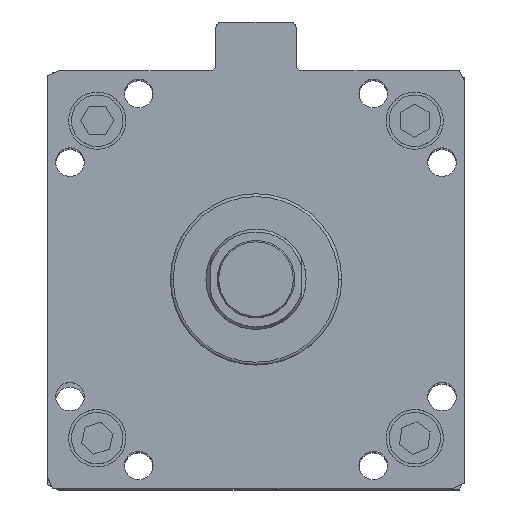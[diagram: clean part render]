
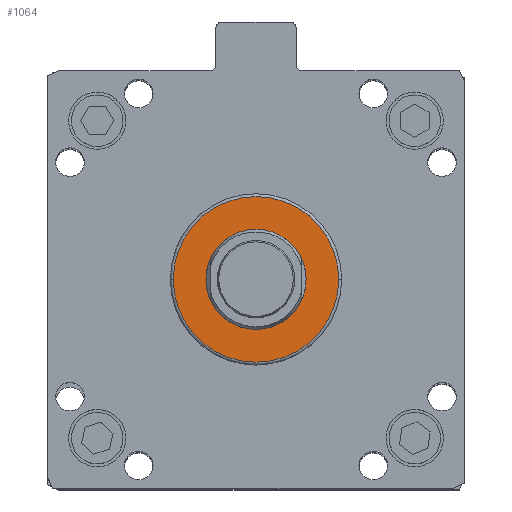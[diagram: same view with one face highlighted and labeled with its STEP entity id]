
A CAD part, top view. The second image highlights one B-rep face of the part: STEP entity #1064.
In plain terms, the highlighted planar face has unit normal (0, 0, 1).
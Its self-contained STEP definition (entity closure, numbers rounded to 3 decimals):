
#96 = ORIENTED_EDGE ( 'NONE', *, *, #4793, .F. ) ;
#280 = AXIS2_PLACEMENT_3D ( 'NONE', #6051, #1695, #6804 ) ;
#632 = CARTESIAN_POINT ( 'NONE',  ( 0., 0., 30. ) ) ;
#665 = DIRECTION ( 'NONE',  ( 1., 0., 0. ) ) ;
#1064 = ADVANCED_FACE ( 'NONE', ( #7946, #6223 ), #2892, .T. ) ;
#1098 = CIRCLE ( 'NONE', #5156, 17.5 ) ;
#1191 = VERTEX_POINT ( 'NONE', #5189 ) ;
#1383 = DIRECTION ( 'NONE',  ( 1., 0., 0. ) ) ;
#1423 = CARTESIAN_POINT ( 'NONE',  ( 0., 0., 30. ) ) ;
#1461 = EDGE_LOOP ( 'NONE', ( #7696, #6285 ) ) ;
#1576 = EDGE_CURVE ( 'NONE', #1900, #8157, #5411, .T. ) ;
#1695 = DIRECTION ( 'NONE',  ( 0., 0., 1. ) ) ;
#1856 = DIRECTION ( 'NONE',  ( 0., 0., 1. ) ) ;
#1900 = VERTEX_POINT ( 'NONE', #3453 ) ;
#1982 = VERTEX_POINT ( 'NONE', #5711 ) ;
#2300 = EDGE_CURVE ( 'NONE', #1191, #1982, #1098, .T. ) ;
#2335 = CIRCLE ( 'NONE', #280, 17.5 ) ;
#2892 = PLANE ( 'NONE',  #4186 ) ;
#3453 = CARTESIAN_POINT ( 'NONE',  ( 28.95, 0., 30. ) ) ;
#3631 = DIRECTION ( 'NONE',  ( 0., 0., 1. ) ) ;
#4173 = EDGE_CURVE ( 'NONE', #8157, #1900, #8889, .T. ) ;
#4186 = AXIS2_PLACEMENT_3D ( 'NONE', #1423, #3631, #8742 ) ;
#4793 = EDGE_CURVE ( 'NONE', #1982, #1191, #2335, .T. ) ;
#5026 = DIRECTION ( 'NONE',  ( 0., 0., 1. ) ) ;
#5156 = AXIS2_PLACEMENT_3D ( 'NONE', #632, #5730, #1383 ) ;
#5189 = CARTESIAN_POINT ( 'NONE',  ( 17.5, 0., 30. ) ) ;
#5223 = CARTESIAN_POINT ( 'NONE',  ( -28.95, 0., 30. ) ) ;
#5411 = CIRCLE ( 'NONE', #8853, 28.95 ) ;
#5711 = CARTESIAN_POINT ( 'NONE',  ( -17.5, 0., 30. ) ) ;
#5730 = DIRECTION ( 'NONE',  ( 0., 0., 1. ) ) ;
#6051 = CARTESIAN_POINT ( 'NONE',  ( 0., 0., 30. ) ) ;
#6223 = FACE_BOUND ( 'NONE', #7641, .T. ) ;
#6225 = CARTESIAN_POINT ( 'NONE',  ( 0., 0., 30. ) ) ;
#6285 = ORIENTED_EDGE ( 'NONE', *, *, #4173, .T. ) ;
#6708 = ORIENTED_EDGE ( 'NONE', *, *, #2300, .F. ) ;
#6804 = DIRECTION ( 'NONE',  ( 1., 0., 0. ) ) ;
#6974 = DIRECTION ( 'NONE',  ( 1., 0., 0. ) ) ;
#7641 = EDGE_LOOP ( 'NONE', ( #96, #6708 ) ) ;
#7696 = ORIENTED_EDGE ( 'NONE', *, *, #1576, .T. ) ;
#7946 = FACE_OUTER_BOUND ( 'NONE', #1461, .T. ) ;
#8157 = VERTEX_POINT ( 'NONE', #5223 ) ;
#8317 = AXIS2_PLACEMENT_3D ( 'NONE', #6225, #1856, #6974 ) ;
#8742 = DIRECTION ( 'NONE',  ( 1., 0., 0. ) ) ;
#8853 = AXIS2_PLACEMENT_3D ( 'NONE', #9438, #5026, #665 ) ;
#8889 = CIRCLE ( 'NONE', #8317, 28.95 ) ;
#9438 = CARTESIAN_POINT ( 'NONE',  ( 0., 0., 30. ) ) ;
